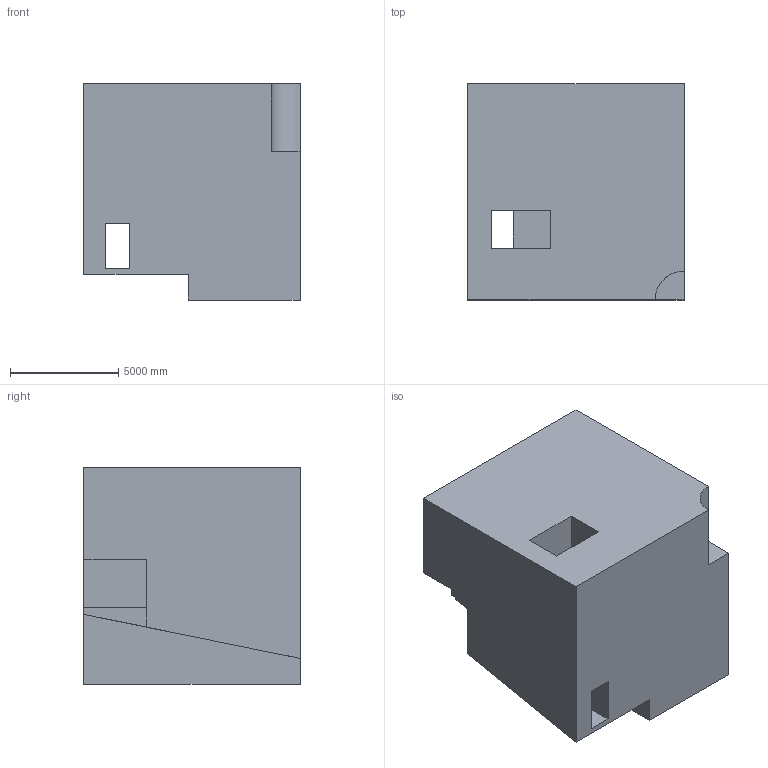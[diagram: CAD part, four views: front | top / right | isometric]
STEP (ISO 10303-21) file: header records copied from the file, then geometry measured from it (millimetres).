
FILE_DESCRIPTION (( 'STEP AP203' ), '1' );
FILE_NAME ('494.STEP', '2022-07-29T11:30:29', ( 'user' ), ( '' ), 'SwSTEP 2.0', 'SolidWorks 2021', '' );
FILE_SCHEMA (( 'CONFIG_CONTROL_DESIGN' ));
Length unit declared in the file: centimetre
Products named in the file (1): 494
Bounding box: 10000 x 10000 x 10000 mm (x, y, z)
Volume: 828908571082.2 mm3; surface area: 656395675.5 mm2
Topology: 1 solids, 1 shells, 22 faces, 66 edges, 44 vertices
Faces by surface type: plane 21, cylinder 1
Entity records: 817 total; most frequent: CARTESIAN_POINT 133, ORIENTED_EDGE 132, DIRECTION 114, EDGE_CURVE 66, VECTOR 64, LINE 64, VERTEX_POINT 44, AXIS2_PLACEMENT_3D 25
